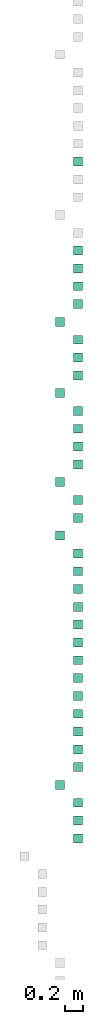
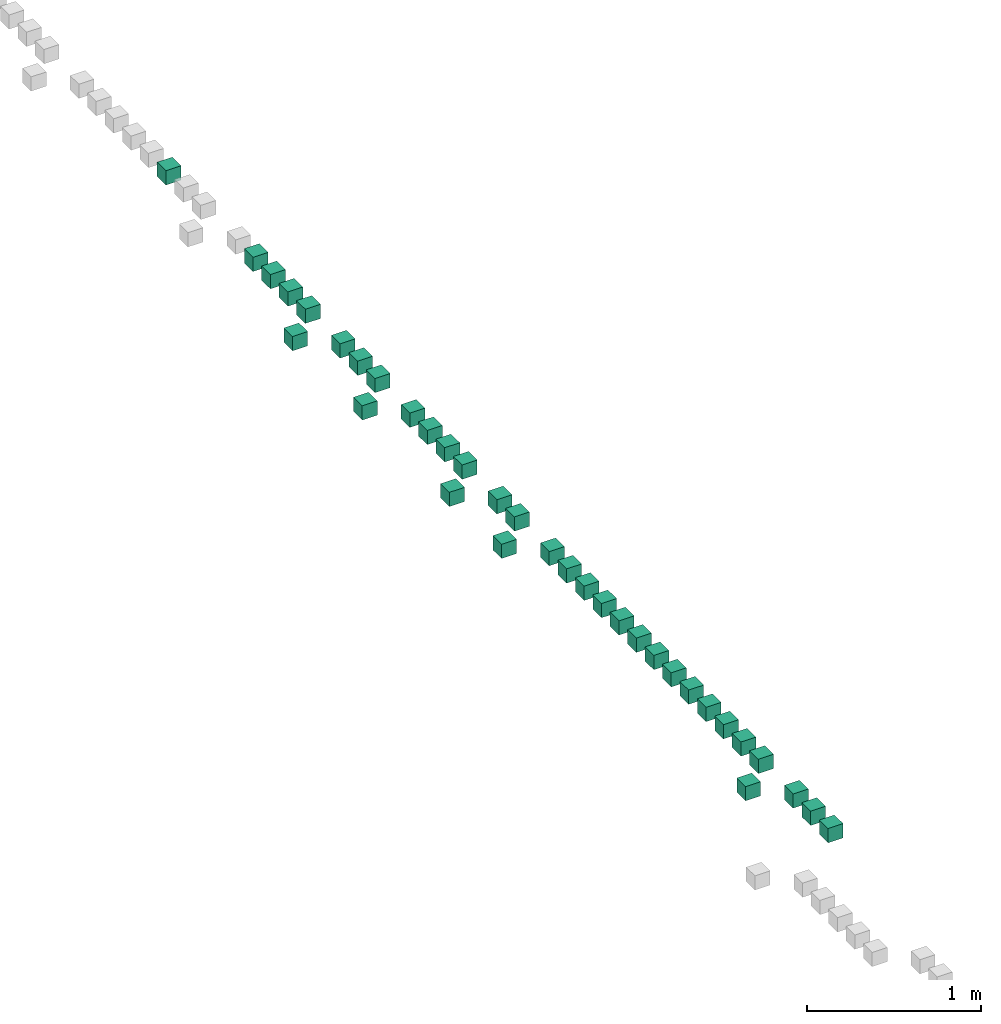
# One storey, part 3 of 7: 1 air terminal, 1 audio visual appliance, 1 cable carrier segment, 1 cable fitting, 1 cable segment, 1 communications appliance, 1 compressor, 1 duct fitting, 27 other elements.
"""IFC4 building model written with IfcOpenShell, lengths in millimetres."""

from ifc_helpers import new_model, entity, si_unit, converted_unit, derived_unit, direction, frame, origin, origin_2d_with_axis, place, context, subcontext, project, spatial, rectangle, extrude, source, transform, mapped, material, type_object, type_shapes, element, save


model = new_model("IFC4")

# Units and contexts
model_context = context("Model", 3, precision=0.01, world=origin(), true_north=direction((6.12303176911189e-17, 1.0)))
body_context = subcontext(model_context, "Body", "Model", "MODEL_VIEW")
ifc_project = project(units=[si_unit("LENGTHUNIT", "METRE", prefix="MILLI"), si_unit("AREAUNIT", "SQUARE_METRE"), si_unit("VOLUMEUNIT", "CUBIC_METRE"), converted_unit("PLANEANGLEUNIT", "DEGREE", entity("IfcRatioMeasure", 0.0174532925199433), si_unit("PLANEANGLEUNIT", "RADIAN"), dimensions=[0, 0, 0, 0, 0, 0, 0]), si_unit("MASSUNIT", "GRAM", prefix="KILO"), derived_unit("MASSDENSITYUNIT", [(si_unit("MASSUNIT", "GRAM", prefix="KILO"), 1), (si_unit("LENGTHUNIT", "METRE"), -3)]), derived_unit("MOMENTOFINERTIAUNIT", [(si_unit("LENGTHUNIT", "METRE"), 4)]), si_unit("TIMEUNIT", "SECOND"), si_unit("FREQUENCYUNIT", "HERTZ"), si_unit("THERMODYNAMICTEMPERATUREUNIT", "DEGREE_CELSIUS"), derived_unit("THERMALTRANSMITTANCEUNIT", [(si_unit("MASSUNIT", "GRAM", prefix="KILO"), 1), (si_unit("THERMODYNAMICTEMPERATUREUNIT", "KELVIN"), -1), (si_unit("TIMEUNIT", "SECOND"), -3)]), derived_unit("VOLUMETRICFLOWRATEUNIT", [(si_unit("LENGTHUNIT", "METRE"), 3), (si_unit("TIMEUNIT", "SECOND"), -1)]), si_unit("ELECTRICCURRENTUNIT", "AMPERE"), si_unit("ELECTRICVOLTAGEUNIT", "VOLT"), si_unit("POWERUNIT", "WATT"), si_unit("FORCEUNIT", "NEWTON", prefix="KILO"), si_unit("ILLUMINANCEUNIT", "LUX"), si_unit("LUMINOUSFLUXUNIT", "LUMEN"), si_unit("LUMINOUSINTENSITYUNIT", "CANDELA"), derived_unit("USERDEFINED", [(si_unit("MASSUNIT", "GRAM", prefix="KILO"), -1), (si_unit("LENGTHUNIT", "METRE"), -2), (si_unit("TIMEUNIT", "SECOND"), 3), (si_unit("LUMINOUSFLUXUNIT", "LUMEN"), 1)]), derived_unit("LINEARVELOCITYUNIT", [(si_unit("LENGTHUNIT", "METRE"), 1), (si_unit("TIMEUNIT", "SECOND"), -1)]), si_unit("PRESSUREUNIT", "PASCAL"), derived_unit("USERDEFINED", [(si_unit("LENGTHUNIT", "METRE"), -2), (si_unit("MASSUNIT", "GRAM", prefix="KILO"), 1), (si_unit("TIMEUNIT", "SECOND"), -2)]), derived_unit("LINEARFORCEUNIT", [(si_unit("MASSUNIT", "GRAM", prefix="KILO"), 1), (si_unit("LENGTHUNIT", "METRE"), 1), (si_unit("TIMEUNIT", "SECOND"), -2), (si_unit("LENGTHUNIT", "METRE"), -1)]), derived_unit("PLANARFORCEUNIT", [(si_unit("MASSUNIT", "GRAM", prefix="KILO"), 1), (si_unit("LENGTHUNIT", "METRE"), 1), (si_unit("TIMEUNIT", "SECOND"), -2), (si_unit("LENGTHUNIT", "METRE"), -2)])], contexts=[model_context])

# Site, building, storey
site_placement = place(None, origin())
site = spatial("IfcSite", under=ifc_project, at=site_placement, Name="Default", CompositionType="ELEMENT")
building_placement = place(site_placement, origin())
building = spatial("IfcBuilding", under=site, at=building_placement, CompositionType="ELEMENT")
storey_placement = place(building_placement, origin())
storey = spatial("IfcBuildingStorey", under=building, at=storey_placement, Name="Level 1", CompositionType="ELEMENT", Elevation=0.0)

# Flow moving device
ifc_material = material(Name="<Unnamed>")
distribution_element_type = type_object("IfcDistributionElementType", Name="Generic Ifc Family:Generic Ifc Family", material=ifc_material)
shared_shape_1 = source(origin(), body_context, "Body", "SweptSolid", [
    extrude(rectangle(XDim=100.0, YDim=100.0, at=origin_2d_with_axis()), frame((50.0, 50.0, 0.0), z_axis=(0.0, 0.0, 1.0), x_axis=(0.0, -1.0, 0.0)), (0.0, 0.0, 1.0), 100.0),
])
type_shapes(distribution_element_type, [shared_shape_1])
flow_moving_device_placement = place(storey_placement, frame((400.0, 9500.0, 0.0), z_axis=(0.0, 0.0, 1.0), x_axis=(0.0, -1.0, 0.0)))
element("IfcFlowMovingDevice", 1, at=flow_moving_device_placement, inside=storey, type_object=distribution_element_type, material=ifc_material, Name="Generic Ifc Family:Generic Ifc Family", ObjectType="Generic Ifc Family:Generic Ifc Family", context=body_context, shape_type="MappedRepresentation", body=[
    mapped(shared_shape_1, transform((0.0, 0.0, 0.0), scale=1.0)),
])

# Flow segment
flow_segment_placement = place(storey_placement, frame((400.0, 8700.0, 0.0), z_axis=(0.0, 0.0, 1.0), x_axis=(0.0, -1.0, 0.0)))
element("IfcFlowSegment", 2, at=flow_segment_placement, inside=storey, type_object=distribution_element_type, material=ifc_material, Name="Generic Ifc Family:Generic Ifc Family", ObjectType="Generic Ifc Family:Generic Ifc Family", context=body_context, shape_type="MappedRepresentation", body=[
    mapped(shared_shape_1, transform((0.0, 0.0, 0.0), scale=1.0)),
])

# Flow storage device
flow_storage_device_placement = place(storey_placement, frame((400.0, 7700.0, 0.0), z_axis=(0.0, 0.0, 1.0), x_axis=(0.0, -1.0, 0.0)))
element("IfcFlowStorageDevice", 3, at=flow_storage_device_placement, inside=storey, type_object=distribution_element_type, material=ifc_material, Name="Generic Ifc Family:Generic Ifc Family", ObjectType="Generic Ifc Family:Generic Ifc Family", context=body_context, shape_type="MappedRepresentation", body=[
    mapped(shared_shape_1, transform((0.0, 0.0, 0.0), scale=1.0)),
])

# Flow terminal
flow_terminal_placement = place(storey_placement, frame((400.0, 7100.0, 0.0), z_axis=(0.0, 0.0, 1.0), x_axis=(0.0, -1.0, 0.0)))
element("IfcFlowTerminal", 4, at=flow_terminal_placement, inside=storey, type_object=distribution_element_type, material=ifc_material, Name="Generic Ifc Family:Generic Ifc Family", ObjectType="Generic Ifc Family:Generic Ifc Family", context=body_context, shape_type="MappedRepresentation", body=[
    mapped(shared_shape_1, transform((0.0, 0.0, 0.0), scale=1.0)),
])

# Flow treatment device
flow_treatment_device_placement = place(storey_placement, frame((400.0, 4300.0, 0.0), z_axis=(0.0, 0.0, 1.0), x_axis=(0.0, -1.0, 0.0)))
element("IfcFlowTreatmentDevice", 5, at=flow_treatment_device_placement, inside=storey, type_object=distribution_element_type, material=ifc_material, Name="Generic Ifc Family:Generic Ifc Family", ObjectType="Generic Ifc Family:Generic Ifc Family", context=body_context, shape_type="MappedRepresentation", body=[
    mapped(shared_shape_1, transform((0.0, 0.0, 0.0), scale=1.0)),
])

# Protective device
protective_device_type = type_object("IfcProtectiveDeviceType", Name="Generic Ifc Family:Generic Ifc Family", PredefinedType="NOTDEFINED", material=ifc_material)
shared_shape_2 = source(origin(), body_context, "Body", "SweptSolid", [
    extrude(rectangle(XDim=100.0, YDim=100.0, at=origin_2d_with_axis()), frame((50.0, 50.0, 0.0), z_axis=(0.0, 0.0, 1.0), x_axis=(0.0, -1.0, 0.0)), (0.0, 0.0, 1.0), 100.0),
])
type_shapes(protective_device_type, [shared_shape_2])
protective_device_placement = place(storey_placement, frame((600.0, 11300.0, 0.0), z_axis=(0.0, 0.0, 1.0), x_axis=(0.0, -1.0, 0.0)))
element("IfcProtectiveDevice", 6, at=protective_device_placement, inside=storey, type_object=protective_device_type, material=ifc_material, Name="Generic Ifc Family:Generic Ifc Family", ObjectType="Generic Ifc Family:Generic Ifc Family", PredefinedType="NOTDEFINED", context=body_context, shape_type="MappedRepresentation", body=[
    mapped(shared_shape_2, transform((0.0, 0.0, 0.0), scale=1.0)),
])

# Cable fitting
cable_fitting_type = type_object("IfcCableFittingType", Name="Generic Ifc Family:Generic Ifc Family", PredefinedType="NOTDEFINED", material=ifc_material)
shared_shape_3 = source(origin(), body_context, "Body", "SweptSolid", [
    extrude(rectangle(XDim=100.0, YDim=100.0, at=origin_2d_with_axis()), frame((50.0, 50.0, 0.0), z_axis=(0.0, 0.0, 1.0), x_axis=(0.0, -1.0, 0.0)), (0.0, 0.0, 1.0), 100.0),
])
type_shapes(cable_fitting_type, [shared_shape_3])
cable_fitting_placement = place(storey_placement, frame((600.0, 10300.0, 0.0), z_axis=(0.0, 0.0, 1.0), x_axis=(0.0, -1.0, 0.0)))
element("IfcCableFitting", 7, at=cable_fitting_placement, inside=storey, type_object=cable_fitting_type, material=ifc_material, Name="Generic Ifc Family:Generic Ifc Family", ObjectType="Generic Ifc Family:Generic Ifc Family", PredefinedType="NOTDEFINED", context=body_context, shape_type="MappedRepresentation", body=[
    mapped(shared_shape_3, transform((0.0, 0.0, 0.0), scale=1.0)),
])

# Duct fitting
duct_fitting_type = type_object("IfcDuctFittingType", Name="Generic Ifc Family:Generic Ifc Family", PredefinedType="NOTDEFINED", material=ifc_material)
shared_shape_4 = source(origin(), body_context, "Body", "SweptSolid", [
    extrude(rectangle(XDim=100.0, YDim=100.0, at=origin_2d_with_axis()), frame((50.0, 50.0, 0.0), z_axis=(0.0, 0.0, 1.0), x_axis=(0.0, -1.0, 0.0)), (0.0, 0.0, 1.0), 100.0),
])
type_shapes(duct_fitting_type, [shared_shape_4])
duct_fitting_placement = place(storey_placement, frame((600.0, 10100.0, 0.0), z_axis=(0.0, 0.0, 1.0), x_axis=(0.0, -1.0, 0.0)))
element("IfcDuctFitting", 8, at=duct_fitting_placement, inside=storey, type_object=duct_fitting_type, material=ifc_material, Name="Generic Ifc Family:Generic Ifc Family", ObjectType="Generic Ifc Family:Generic Ifc Family", PredefinedType="NOTDEFINED", context=body_context, shape_type="MappedRepresentation", body=[
    mapped(shared_shape_4, transform((0.0, 0.0, 0.0), scale=1.0)),
])

# Junction box
junction_box_type = type_object("IfcJunctionBoxType", Name="Generic Ifc Family:Generic Ifc Family", PredefinedType="NOTDEFINED", material=ifc_material)
shared_shape_5 = source(origin(), body_context, "Body", "SweptSolid", [
    extrude(rectangle(XDim=100.0, YDim=100.0, at=origin_2d_with_axis()), frame((50.0, 50.0, 0.0), z_axis=(0.0, 0.0, 1.0), x_axis=(0.0, -1.0, 0.0)), (0.0, 0.0, 1.0), 100.0),
])
type_shapes(junction_box_type, [shared_shape_5])
junction_box_placement = place(storey_placement, frame((600.0, 9900.0, 0.0), z_axis=(0.0, 0.0, 1.0), x_axis=(0.0, -1.0, 0.0)))
element("IfcJunctionBox", 9, at=junction_box_placement, inside=storey, type_object=junction_box_type, material=ifc_material, Name="Generic Ifc Family:Generic Ifc Family", ObjectType="Generic Ifc Family:Generic Ifc Family", PredefinedType="NOTDEFINED", context=body_context, shape_type="MappedRepresentation", body=[
    mapped(shared_shape_5, transform((0.0, 0.0, 0.0), scale=1.0)),
])

# Pipe fitting
pipe_fitting_type = type_object("IfcPipeFittingType", Name="Generic Ifc Family:Generic Ifc Family", PredefinedType="NOTDEFINED", material=ifc_material)
shared_shape_6 = source(origin(), body_context, "Body", "SweptSolid", [
    extrude(rectangle(XDim=100.0, YDim=100.0, at=origin_2d_with_axis()), frame((50.0, 50.0, 0.0), z_axis=(0.0, 0.0, 1.0), x_axis=(0.0, -1.0, 0.0)), (0.0, 0.0, 1.0), 100.0),
])
type_shapes(pipe_fitting_type, [shared_shape_6])
pipe_fitting_placement = place(storey_placement, frame((600.0, 9700.0, 0.0), z_axis=(0.0, 0.0, 1.0), x_axis=(0.0, -1.0, 0.0)))
element("IfcPipeFitting", 10, at=pipe_fitting_placement, inside=storey, type_object=pipe_fitting_type, material=ifc_material, Name="Generic Ifc Family:Generic Ifc Family", ObjectType="Generic Ifc Family:Generic Ifc Family", PredefinedType="NOTDEFINED", context=body_context, shape_type="MappedRepresentation", body=[
    mapped(shared_shape_6, transform((0.0, 0.0, 0.0), scale=1.0)),
])

# Compressor
compressor_type = type_object("IfcCompressorType", Name="Generic Ifc Family:Generic Ifc Family", PredefinedType="NOTDEFINED", material=ifc_material)
shared_shape_7 = source(origin(), body_context, "Body", "SweptSolid", [
    extrude(rectangle(XDim=100.0, YDim=100.0, at=origin_2d_with_axis()), frame((50.0, 50.0, 0.0), z_axis=(0.0, 0.0, 1.0), x_axis=(0.0, -1.0, 0.0)), (0.0, 0.0, 1.0), 100.0),
])
type_shapes(compressor_type, [shared_shape_7])
compressor_placement = place(storey_placement, frame((600.0, 9300.0, 0.0), z_axis=(0.0, 0.0, 1.0), x_axis=(0.0, -1.0, 0.0)))
element("IfcCompressor", 11, at=compressor_placement, inside=storey, type_object=compressor_type, material=ifc_material, Name="Generic Ifc Family:Generic Ifc Family", ObjectType="Generic Ifc Family:Generic Ifc Family", PredefinedType="NOTDEFINED", context=body_context, shape_type="MappedRepresentation", body=[
    mapped(shared_shape_7, transform((0.0, 0.0, 0.0), scale=1.0)),
])

# Fan
fan_type = type_object("IfcFanType", Name="Generic Ifc Family:Generic Ifc Family", PredefinedType="NOTDEFINED", material=ifc_material)
shared_shape_8 = source(origin(), body_context, "Body", "SweptSolid", [
    extrude(rectangle(XDim=100.0, YDim=100.0, at=origin_2d_with_axis()), frame((50.0, 50.0, 0.0), z_axis=(0.0, 0.0, 1.0), x_axis=(0.0, -1.0, 0.0)), (0.0, 0.0, 1.0), 100.0),
])
type_shapes(fan_type, [shared_shape_8])
fan_placement = place(storey_placement, frame((600.0, 9100.0, 0.0), z_axis=(0.0, 0.0, 1.0), x_axis=(0.0, -1.0, 0.0)))
element("IfcFan", 12, at=fan_placement, inside=storey, type_object=fan_type, material=ifc_material, Name="Generic Ifc Family:Generic Ifc Family", ObjectType="Generic Ifc Family:Generic Ifc Family", PredefinedType="NOTDEFINED", context=body_context, shape_type="MappedRepresentation", body=[
    mapped(shared_shape_8, transform((0.0, 0.0, 0.0), scale=1.0)),
])

# Pump
pump_type = type_object("IfcPumpType", Name="Generic Ifc Family:Generic Ifc Family", PredefinedType="NOTDEFINED", material=ifc_material)
shared_shape_9 = source(origin(), body_context, "Body", "SweptSolid", [
    extrude(rectangle(XDim=100.0, YDim=100.0, at=origin_2d_with_axis()), frame((50.0, 50.0, 0.0), z_axis=(0.0, 0.0, 1.0), x_axis=(0.0, -1.0, 0.0)), (0.0, 0.0, 1.0), 100.0),
])
type_shapes(pump_type, [shared_shape_9])
pump_placement = place(storey_placement, frame((600.0, 8900.0, 0.0), z_axis=(0.0, 0.0, 1.0), x_axis=(0.0, -1.0, 0.0)))
element("IfcPump", 13, at=pump_placement, inside=storey, type_object=pump_type, material=ifc_material, Name="Generic Ifc Family:Generic Ifc Family", ObjectType="Generic Ifc Family:Generic Ifc Family", PredefinedType="NOTDEFINED", context=body_context, shape_type="MappedRepresentation", body=[
    mapped(shared_shape_9, transform((0.0, 0.0, 0.0), scale=1.0)),
])

# Cable carrier segment
cable_carrier_segment_type = type_object("IfcCableCarrierSegmentType", Name="Generic Ifc Family:Generic Ifc Family", PredefinedType="NOTDEFINED", material=ifc_material)
shared_shape_10 = source(origin(), body_context, "Body", "SweptSolid", [
    extrude(rectangle(XDim=100.0, YDim=100.0, at=origin_2d_with_axis()), frame((50.0, 50.0, 0.0), z_axis=(0.0, 0.0, 1.0), x_axis=(0.0, -1.0, 0.0)), (0.0, 0.0, 1.0), 100.0),
])
type_shapes(cable_carrier_segment_type, [shared_shape_10])
cable_carrier_segment_placement = place(storey_placement, frame((600.0, 8500.0, 0.0), z_axis=(0.0, 0.0, 1.0), x_axis=(0.0, -1.0, 0.0)))
element("IfcCableCarrierSegment", 14, at=cable_carrier_segment_placement, inside=storey, type_object=cable_carrier_segment_type, material=ifc_material, Name="Generic Ifc Family:Generic Ifc Family", ObjectType="Generic Ifc Family:Generic Ifc Family", PredefinedType="NOTDEFINED", context=body_context, shape_type="MappedRepresentation", body=[
    mapped(shared_shape_10, transform((0.0, 0.0, 0.0), scale=1.0)),
])

# Cable segment
cable_segment_type = type_object("IfcCableSegmentType", Name="Generic Ifc Family:Generic Ifc Family", PredefinedType="NOTDEFINED", material=ifc_material)
shared_shape_11 = source(origin(), body_context, "Body", "SweptSolid", [
    extrude(rectangle(XDim=100.0, YDim=100.0, at=origin_2d_with_axis()), frame((50.0, 50.0, 0.0), z_axis=(0.0, 0.0, 1.0), x_axis=(0.0, -1.0, 0.0)), (0.0, 0.0, 1.0), 100.0),
])
type_shapes(cable_segment_type, [shared_shape_11])
cable_segment_placement = place(storey_placement, frame((600.0, 8300.0, 0.0), z_axis=(0.0, 0.0, 1.0), x_axis=(0.0, -1.0, 0.0)))
element("IfcCableSegment", 15, at=cable_segment_placement, inside=storey, type_object=cable_segment_type, material=ifc_material, Name="Generic Ifc Family:Generic Ifc Family", ObjectType="Generic Ifc Family:Generic Ifc Family", PredefinedType="NOTDEFINED", context=body_context, shape_type="MappedRepresentation", body=[
    mapped(shared_shape_11, transform((0.0, 0.0, 0.0), scale=1.0)),
])

# Duct segment
duct_segment_type = type_object("IfcDuctSegmentType", Name="Generic Ifc Family:Generic Ifc Family", PredefinedType="NOTDEFINED", material=ifc_material)
shared_shape_12 = source(origin(), body_context, "Body", "SweptSolid", [
    extrude(rectangle(XDim=100.0, YDim=100.0, at=origin_2d_with_axis()), frame((50.0, 50.0, 0.0), z_axis=(0.0, 0.0, 1.0), x_axis=(0.0, -1.0, 0.0)), (0.0, 0.0, 1.0), 100.0),
])
type_shapes(duct_segment_type, [shared_shape_12])
duct_segment_placement = place(storey_placement, frame((600.0, 8100.0, 0.0), z_axis=(0.0, 0.0, 1.0), x_axis=(0.0, -1.0, 0.0)))
element("IfcDuctSegment", 16, at=duct_segment_placement, inside=storey, type_object=duct_segment_type, material=ifc_material, Name="Generic Ifc Family:Generic Ifc Family", ObjectType="Generic Ifc Family:Generic Ifc Family", PredefinedType="NOTDEFINED", context=body_context, shape_type="MappedRepresentation", body=[
    mapped(shared_shape_12, transform((0.0, 0.0, 0.0), scale=1.0)),
])

# Pipe segment
pipe_segment_type = type_object("IfcPipeSegmentType", Name="Generic Ifc Family:Generic Ifc Family", PredefinedType="NOTDEFINED", material=ifc_material)
shared_shape_13 = source(origin(), body_context, "Body", "SweptSolid", [
    extrude(rectangle(XDim=100.0, YDim=100.0, at=origin_2d_with_axis()), frame((50.0, 50.0, 0.0), z_axis=(0.0, 0.0, 1.0), x_axis=(0.0, -1.0, 0.0)), (0.0, 0.0, 1.0), 100.0),
])
type_shapes(pipe_segment_type, [shared_shape_13])
pipe_segment_placement = place(storey_placement, frame((600.0, 7900.0, 0.0), z_axis=(0.0, 0.0, 1.0), x_axis=(0.0, -1.0, 0.0)))
element("IfcPipeSegment", 17, at=pipe_segment_placement, inside=storey, type_object=pipe_segment_type, material=ifc_material, Name="Generic Ifc Family:Generic Ifc Family", ObjectType="Generic Ifc Family:Generic Ifc Family", PredefinedType="NOTDEFINED", context=body_context, shape_type="MappedRepresentation", body=[
    mapped(shared_shape_13, transform((0.0, 0.0, 0.0), scale=1.0)),
])

# Electric flow storage device
electric_flow_storage_device_type = type_object("IfcElectricFlowStorageDeviceType", Name="Generic Ifc Family:Generic Ifc Family", PredefinedType="NOTDEFINED", material=ifc_material)
shared_shape_14 = source(origin(), body_context, "Body", "SweptSolid", [
    extrude(rectangle(XDim=100.0, YDim=100.0, at=origin_2d_with_axis()), frame((50.0, 50.0, 0.0), z_axis=(0.0, 0.0, 1.0), x_axis=(0.0, -1.0, 0.0)), (0.0, 0.0, 1.0), 100.0),
])
type_shapes(electric_flow_storage_device_type, [shared_shape_14])
electric_flow_storage_device_placement = place(storey_placement, frame((600.0, 7500.0, 0.0), z_axis=(0.0, 0.0, 1.0), x_axis=(0.0, -1.0, 0.0)))
element("IfcElectricFlowStorageDevice", 18, at=electric_flow_storage_device_placement, inside=storey, type_object=electric_flow_storage_device_type, material=ifc_material, Name="Generic Ifc Family:Generic Ifc Family", ObjectType="Generic Ifc Family:Generic Ifc Family", PredefinedType="NOTDEFINED", context=body_context, shape_type="MappedRepresentation", body=[
    mapped(shared_shape_14, transform((0.0, 0.0, 0.0), scale=1.0)),
])

# Tank
tank_type = type_object("IfcTankType", Name="Generic Ifc Family:Generic Ifc Family", PredefinedType="NOTDEFINED", material=ifc_material)
shared_shape_15 = source(origin(), body_context, "Body", "SweptSolid", [
    extrude(rectangle(XDim=100.0, YDim=100.0, at=origin_2d_with_axis()), frame((50.0, 50.0, 0.0), z_axis=(0.0, 0.0, 1.0), x_axis=(0.0, -1.0, 0.0)), (0.0, 0.0, 1.0), 100.0),
])
type_shapes(tank_type, [shared_shape_15])
tank_placement = place(storey_placement, frame((600.0, 7300.0, 0.0), z_axis=(0.0, 0.0, 1.0), x_axis=(0.0, -1.0, 0.0)))
element("IfcTank", 19, at=tank_placement, inside=storey, type_object=tank_type, material=ifc_material, Name="Generic Ifc Family:Generic Ifc Family", ObjectType="Generic Ifc Family:Generic Ifc Family", PredefinedType="NOTDEFINED", context=body_context, shape_type="MappedRepresentation", body=[
    mapped(shared_shape_15, transform((0.0, 0.0, 0.0), scale=1.0)),
])

# Air terminal
air_terminal_type = type_object("IfcAirTerminalType", Name="Generic Ifc Family:Generic Ifc Family", PredefinedType="NOTDEFINED", material=ifc_material)
shared_shape_16 = source(origin(), body_context, "Body", "SweptSolid", [
    extrude(rectangle(XDim=100.0, YDim=100.0, at=origin_2d_with_axis()), frame((50.0, 50.0, 0.0), z_axis=(0.0, 0.0, 1.0), x_axis=(0.0, -1.0, 0.0)), (0.0, 0.0, 1.0), 100.0),
])
type_shapes(air_terminal_type, [shared_shape_16])
air_terminal_placement = place(storey_placement, frame((600.0, 6900.0, 0.0), z_axis=(0.0, 0.0, 1.0), x_axis=(0.0, -1.0, 0.0)))
element("IfcAirTerminal", 20, at=air_terminal_placement, inside=storey, type_object=air_terminal_type, material=ifc_material, Name="Generic Ifc Family:Generic Ifc Family", ObjectType="Generic Ifc Family:Generic Ifc Family", PredefinedType="NOTDEFINED", context=body_context, shape_type="MappedRepresentation", body=[
    mapped(shared_shape_16, transform((0.0, 0.0, 0.0), scale=1.0)),
])

# Audio visual appliance
audio_visual_appliance_type = type_object("IfcAudioVisualApplianceType", Name="Generic Ifc Family:Generic Ifc Family", PredefinedType="NOTDEFINED", material=ifc_material)
shared_shape_17 = source(origin(), body_context, "Body", "SweptSolid", [
    extrude(rectangle(XDim=100.0, YDim=100.0, at=origin_2d_with_axis()), frame((50.0, 50.0, 0.0), z_axis=(0.0, 0.0, 1.0), x_axis=(0.0, -1.0, 0.0)), (0.0, 0.0, 1.0), 100.0),
])
type_shapes(audio_visual_appliance_type, [shared_shape_17])
audio_visual_appliance_placement = place(storey_placement, frame((600.0, 6700.0, 0.0), z_axis=(0.0, 0.0, 1.0), x_axis=(0.0, -1.0, 0.0)))
element("IfcAudioVisualAppliance", 21, at=audio_visual_appliance_placement, inside=storey, type_object=audio_visual_appliance_type, material=ifc_material, Name="Generic Ifc Family:Generic Ifc Family", ObjectType="Generic Ifc Family:Generic Ifc Family", PredefinedType="NOTDEFINED", context=body_context, shape_type="MappedRepresentation", body=[
    mapped(shared_shape_17, transform((0.0, 0.0, 0.0), scale=1.0)),
])

# Communications appliance
communications_appliance_type = type_object("IfcCommunicationsApplianceType", Name="Generic Ifc Family:Generic Ifc Family", PredefinedType="NOTDEFINED", material=ifc_material)
shared_shape_18 = source(origin(), body_context, "Body", "SweptSolid", [
    extrude(rectangle(XDim=100.0, YDim=100.0, at=origin_2d_with_axis()), frame((50.0, 50.0, 0.0), z_axis=(0.0, 0.0, 1.0), x_axis=(0.0, -1.0, 0.0)), (0.0, 0.0, 1.0), 100.0),
])
type_shapes(communications_appliance_type, [shared_shape_18])
communications_appliance_placement = place(storey_placement, frame((600.0, 6500.0, 0.0), z_axis=(0.0, 0.0, 1.0), x_axis=(0.0, -1.0, 0.0)))
element("IfcCommunicationsAppliance", 22, at=communications_appliance_placement, inside=storey, type_object=communications_appliance_type, material=ifc_material, Name="Generic Ifc Family:Generic Ifc Family", ObjectType="Generic Ifc Family:Generic Ifc Family", PredefinedType="NOTDEFINED", context=body_context, shape_type="MappedRepresentation", body=[
    mapped(shared_shape_18, transform((0.0, 0.0, 0.0), scale=1.0)),
])

# Electric appliance
electric_appliance_type = type_object("IfcElectricApplianceType", Name="Generic Ifc Family:Generic Ifc Family", PredefinedType="NOTDEFINED", material=ifc_material)
shared_shape_19 = source(origin(), body_context, "Body", "SweptSolid", [
    extrude(rectangle(XDim=100.0, YDim=100.0, at=origin_2d_with_axis()), frame((50.0, 50.0, 0.0), z_axis=(0.0, 0.0, 1.0), x_axis=(0.0, -1.0, 0.0)), (0.0, 0.0, 1.0), 100.0),
])
type_shapes(electric_appliance_type, [shared_shape_19])
electric_appliance_placement = place(storey_placement, frame((600.0, 6300.0, 0.0), z_axis=(0.0, 0.0, 1.0), x_axis=(0.0, -1.0, 0.0)))
element("IfcElectricAppliance", 23, at=electric_appliance_placement, inside=storey, type_object=electric_appliance_type, material=ifc_material, Name="Generic Ifc Family:Generic Ifc Family", ObjectType="Generic Ifc Family:Generic Ifc Family", PredefinedType="NOTDEFINED", context=body_context, shape_type="MappedRepresentation", body=[
    mapped(shared_shape_19, transform((0.0, 0.0, 0.0), scale=1.0)),
])

# Fire suppression terminal
fire_suppression_terminal_type = type_object("IfcFireSuppressionTerminalType", Name="Generic Ifc Family:Generic Ifc Family", PredefinedType="NOTDEFINED", material=ifc_material)
shared_shape_20 = source(origin(), body_context, "Body", "SweptSolid", [
    extrude(rectangle(XDim=100.0, YDim=100.0, at=origin_2d_with_axis()), frame((50.0, 50.0, 0.0), z_axis=(0.0, 0.0, 1.0), x_axis=(0.0, -1.0, 0.0)), (0.0, 0.0, 1.0), 100.0),
])
type_shapes(fire_suppression_terminal_type, [shared_shape_20])
fire_suppression_terminal_placement = place(storey_placement, frame((600.0, 6100.0, 0.0), z_axis=(0.0, 0.0, 1.0), x_axis=(0.0, -1.0, 0.0)))
element("IfcFireSuppressionTerminal", 24, at=fire_suppression_terminal_placement, inside=storey, type_object=fire_suppression_terminal_type, material=ifc_material, Name="Generic Ifc Family:Generic Ifc Family", ObjectType="Generic Ifc Family:Generic Ifc Family", PredefinedType="NOTDEFINED", context=body_context, shape_type="MappedRepresentation", body=[
    mapped(shared_shape_20, transform((0.0, 0.0, 0.0), scale=1.0)),
])

# Lamp
lamp_type = type_object("IfcLampType", Name="Generic Ifc Family:Generic Ifc Family", PredefinedType="NOTDEFINED", material=ifc_material)
shared_shape_21 = source(origin(), body_context, "Body", "SweptSolid", [
    extrude(rectangle(XDim=100.0, YDim=100.0, at=origin_2d_with_axis()), frame((50.0, 50.0, 0.0), z_axis=(0.0, 0.0, 1.0), x_axis=(0.0, -1.0, 0.0)), (0.0, 0.0, 1.0), 100.0),
])
type_shapes(lamp_type, [shared_shape_21])
lamp_placement = place(storey_placement, frame((600.0, 5900.0, 0.0), z_axis=(0.0, 0.0, 1.0), x_axis=(0.0, -1.0, 0.0)))
element("IfcLamp", 25, at=lamp_placement, inside=storey, type_object=lamp_type, material=ifc_material, Name="Generic Ifc Family:Generic Ifc Family", ObjectType="Generic Ifc Family:Generic Ifc Family", PredefinedType="NOTDEFINED", context=body_context, shape_type="MappedRepresentation", body=[
    mapped(shared_shape_21, transform((0.0, 0.0, 0.0), scale=1.0)),
])

# Light fixture
light_fixture_type = type_object("IfcLightFixtureType", Name="Generic Ifc Family:Generic Ifc Family", PredefinedType="NOTDEFINED", material=ifc_material)
shared_shape_22 = source(origin(), body_context, "Body", "SweptSolid", [
    extrude(rectangle(XDim=100.0, YDim=100.0, at=origin_2d_with_axis()), frame((50.0, 50.0, 0.0), z_axis=(0.0, 0.0, 1.0), x_axis=(0.0, -1.0, 0.0)), (0.0, 0.0, 1.0), 100.0),
])
type_shapes(light_fixture_type, [shared_shape_22])
light_fixture_placement = place(storey_placement, frame((600.0, 5700.0, 0.0), z_axis=(0.0, 0.0, 1.0), x_axis=(0.0, -1.0, 0.0)))
element("IfcLightFixture", 26, at=light_fixture_placement, inside=storey, type_object=light_fixture_type, material=ifc_material, Name="Generic Ifc Family:Generic Ifc Family", ObjectType="Generic Ifc Family:Generic Ifc Family", PredefinedType="NOTDEFINED", context=body_context, shape_type="MappedRepresentation", body=[
    mapped(shared_shape_22, transform((0.0, 0.0, 0.0), scale=1.0)),
])

# Medical device
medical_device_type = type_object("IfcMedicalDeviceType", Name="Generic Ifc Family:Generic Ifc Family", PredefinedType="NOTDEFINED", material=ifc_material)
shared_shape_23 = source(origin(), body_context, "Body", "SweptSolid", [
    extrude(rectangle(XDim=100.0, YDim=100.0, at=origin_2d_with_axis()), frame((50.0, 50.0, 0.0), z_axis=(0.0, 0.0, 1.0), x_axis=(0.0, -1.0, 0.0)), (0.0, 0.0, 1.0), 100.0),
])
type_shapes(medical_device_type, [shared_shape_23])
medical_device_placement = place(storey_placement, frame((600.0, 5500.0, 0.0), z_axis=(0.0, 0.0, 1.0), x_axis=(0.0, -1.0, 0.0)))
element("IfcMedicalDevice", 27, at=medical_device_placement, inside=storey, type_object=medical_device_type, material=ifc_material, Name="Generic Ifc Family:Generic Ifc Family", ObjectType="Generic Ifc Family:Generic Ifc Family", PredefinedType="NOTDEFINED", context=body_context, shape_type="MappedRepresentation", body=[
    mapped(shared_shape_23, transform((0.0, 0.0, 0.0), scale=1.0)),
])

# Outlet
outlet_type = type_object("IfcOutletType", Name="Generic Ifc Family:Generic Ifc Family", PredefinedType="NOTDEFINED", material=ifc_material)
shared_shape_24 = source(origin(), body_context, "Body", "SweptSolid", [
    extrude(rectangle(XDim=100.0, YDim=100.0, at=origin_2d_with_axis()), frame((50.0, 50.0, 0.0), z_axis=(0.0, 0.0, 1.0), x_axis=(0.0, -1.0, 0.0)), (0.0, 0.0, 1.0), 100.0),
])
type_shapes(outlet_type, [shared_shape_24])
outlet_placement = place(storey_placement, frame((600.0, 5300.0, 0.0), z_axis=(0.0, 0.0, 1.0), x_axis=(0.0, -1.0, 0.0)))
element("IfcOutlet", 28, at=outlet_placement, inside=storey, type_object=outlet_type, material=ifc_material, Name="Generic Ifc Family:Generic Ifc Family", ObjectType="Generic Ifc Family:Generic Ifc Family", PredefinedType="NOTDEFINED", context=body_context, shape_type="MappedRepresentation", body=[
    mapped(shared_shape_24, transform((0.0, 0.0, 0.0), scale=1.0)),
])

# Sanitary terminal
sanitary_terminal_type = type_object("IfcSanitaryTerminalType", Name="Generic Ifc Family:Generic Ifc Family", PredefinedType="NOTDEFINED", material=ifc_material)
shared_shape_25 = source(origin(), body_context, "Body", "SweptSolid", [
    extrude(rectangle(XDim=100.0, YDim=100.0, at=origin_2d_with_axis()), frame((50.0, 50.0, 0.0), z_axis=(0.0, 0.0, 1.0), x_axis=(0.0, -1.0, 0.0)), (0.0, 0.0, 1.0), 100.0),
])
type_shapes(sanitary_terminal_type, [shared_shape_25])
sanitary_terminal_placement = place(storey_placement, frame((600.0, 5100.0, 0.0), z_axis=(0.0, 0.0, 1.0), x_axis=(0.0, -1.0, 0.0)))
element("IfcSanitaryTerminal", 29, at=sanitary_terminal_placement, inside=storey, type_object=sanitary_terminal_type, material=ifc_material, Name="Generic Ifc Family:Generic Ifc Family", ObjectType="Generic Ifc Family:Generic Ifc Family", PredefinedType="NOTDEFINED", context=body_context, shape_type="MappedRepresentation", body=[
    mapped(shared_shape_25, transform((0.0, 0.0, 0.0), scale=1.0)),
])

# Space heater
space_heater_type = type_object("IfcSpaceHeaterType", Name="Generic Ifc Family:Generic Ifc Family", PredefinedType="NOTDEFINED", material=ifc_material)
shared_shape_26 = source(origin(), body_context, "Body", "SweptSolid", [
    extrude(rectangle(XDim=100.0, YDim=100.0, at=origin_2d_with_axis()), frame((50.0, 50.0, 0.0), z_axis=(0.0, 0.0, 1.0), x_axis=(0.0, -1.0, 0.0)), (0.0, 0.0, 1.0), 100.0),
])
type_shapes(space_heater_type, [shared_shape_26])
space_heater_placement = place(storey_placement, frame((600.0, 4900.0, 0.0), z_axis=(0.0, 0.0, 1.0), x_axis=(0.0, -1.0, 0.0)))
element("IfcSpaceHeater", 30, at=space_heater_placement, inside=storey, type_object=space_heater_type, material=ifc_material, Name="Generic Ifc Family:Generic Ifc Family", ObjectType="Generic Ifc Family:Generic Ifc Family", PredefinedType="NOTDEFINED", context=body_context, shape_type="MappedRepresentation", body=[
    mapped(shared_shape_26, transform((0.0, 0.0, 0.0), scale=1.0)),
])

# Stack terminal
stack_terminal_type = type_object("IfcStackTerminalType", Name="Generic Ifc Family:Generic Ifc Family", PredefinedType="NOTDEFINED", material=ifc_material)
shared_shape_27 = source(origin(), body_context, "Body", "SweptSolid", [
    extrude(rectangle(XDim=100.0, YDim=100.0, at=origin_2d_with_axis()), frame((50.0, 50.0, 0.0), z_axis=(0.0, 0.0, 1.0), x_axis=(0.0, -1.0, 0.0)), (0.0, 0.0, 1.0), 100.0),
])
type_shapes(stack_terminal_type, [shared_shape_27])
stack_terminal_placement = place(storey_placement, frame((600.0, 4700.0, 0.0), z_axis=(0.0, 0.0, 1.0), x_axis=(0.0, -1.0, 0.0)))
element("IfcStackTerminal", 31, at=stack_terminal_placement, inside=storey, type_object=stack_terminal_type, material=ifc_material, Name="Generic Ifc Family:Generic Ifc Family", ObjectType="Generic Ifc Family:Generic Ifc Family", PredefinedType="NOTDEFINED", context=body_context, shape_type="MappedRepresentation", body=[
    mapped(shared_shape_27, transform((0.0, 0.0, 0.0), scale=1.0)),
])

# Waste terminal
waste_terminal_type = type_object("IfcWasteTerminalType", Name="Generic Ifc Family:Generic Ifc Family", PredefinedType="NOTDEFINED", material=ifc_material)
shared_shape_28 = source(origin(), body_context, "Body", "SweptSolid", [
    extrude(rectangle(XDim=100.0, YDim=100.0, at=origin_2d_with_axis()), frame((50.0, 50.0, 0.0), z_axis=(0.0, 0.0, 1.0), x_axis=(0.0, -1.0, 0.0)), (0.0, 0.0, 1.0), 100.0),
])
type_shapes(waste_terminal_type, [shared_shape_28])
waste_terminal_placement = place(storey_placement, frame((600.0, 4500.0, 0.0), z_axis=(0.0, 0.0, 1.0), x_axis=(0.0, -1.0, 0.0)))
element("IfcWasteTerminal", 32, at=waste_terminal_placement, inside=storey, type_object=waste_terminal_type, material=ifc_material, Name="Generic Ifc Family:Generic Ifc Family", ObjectType="Generic Ifc Family:Generic Ifc Family", PredefinedType="NOTDEFINED", context=body_context, shape_type="MappedRepresentation", body=[
    mapped(shared_shape_28, transform((0.0, 0.0, 0.0), scale=1.0)),
])

# Duct silencer
duct_silencer_type = type_object("IfcDuctSilencerType", Name="Generic Ifc Family:Generic Ifc Family", PredefinedType="NOTDEFINED", material=ifc_material)
shared_shape_29 = source(origin(), body_context, "Body", "SweptSolid", [
    extrude(rectangle(XDim=100.0, YDim=100.0, at=origin_2d_with_axis()), frame((50.0, 50.0, 0.0), z_axis=(0.0, 0.0, 1.0), x_axis=(0.0, -1.0, 0.0)), (0.0, 0.0, 1.0), 100.0),
])
type_shapes(duct_silencer_type, [shared_shape_29])
duct_silencer_placement = place(storey_placement, frame((600.0, 4100.0, 0.0), z_axis=(0.0, 0.0, 1.0), x_axis=(0.0, -1.0, 0.0)))
element("IfcDuctSilencer", 33, at=duct_silencer_placement, inside=storey, type_object=duct_silencer_type, material=ifc_material, Name="Generic Ifc Family:Generic Ifc Family", ObjectType="Generic Ifc Family:Generic Ifc Family", PredefinedType="NOTDEFINED", context=body_context, shape_type="MappedRepresentation", body=[
    mapped(shared_shape_29, transform((0.0, 0.0, 0.0), scale=1.0)),
])

# Filter
filter_type = type_object("IfcFilterType", Name="Generic Ifc Family:Generic Ifc Family", PredefinedType="NOTDEFINED", material=ifc_material)
shared_shape_30 = source(origin(), body_context, "Body", "SweptSolid", [
    extrude(rectangle(XDim=100.0, YDim=100.0, at=origin_2d_with_axis()), frame((50.0, 50.0, 0.0), z_axis=(0.0, 0.0, 1.0), x_axis=(0.0, -1.0, 0.0)), (0.0, 0.0, 1.0), 100.0),
])
type_shapes(filter_type, [shared_shape_30])
ifc_filter_placement = place(storey_placement, frame((600.0, 3900.0, 0.0), z_axis=(0.0, 0.0, 1.0), x_axis=(0.0, -1.0, 0.0)))
element("IfcFilter", 34, at=ifc_filter_placement, inside=storey, type_object=filter_type, material=ifc_material, Name="Generic Ifc Family:Generic Ifc Family", ObjectType="Generic Ifc Family:Generic Ifc Family", PredefinedType="NOTDEFINED", context=body_context, shape_type="MappedRepresentation", body=[
    mapped(shared_shape_30, transform((0.0, 0.0, 0.0), scale=1.0)),
])

# Interceptor
interceptor_type = type_object("IfcInterceptorType", Name="Generic Ifc Family:Generic Ifc Family", PredefinedType="NOTDEFINED", material=ifc_material)
shared_shape_31 = source(origin(), body_context, "Body", "SweptSolid", [
    extrude(rectangle(XDim=100.0, YDim=100.0, at=origin_2d_with_axis()), frame((50.0, 50.0, 0.0), z_axis=(0.0, 0.0, 1.0), x_axis=(0.0, -1.0, 0.0)), (0.0, 0.0, 1.0), 100.0),
])
type_shapes(interceptor_type, [shared_shape_31])
interceptor_placement = place(storey_placement, frame((600.0, 3700.0, 0.0), z_axis=(0.0, 0.0, 1.0), x_axis=(0.0, -1.0, 0.0)))
element("IfcInterceptor", 35, at=interceptor_placement, inside=storey, type_object=interceptor_type, material=ifc_material, Name="Generic Ifc Family:Generic Ifc Family", ObjectType="Generic Ifc Family:Generic Ifc Family", PredefinedType="NOTDEFINED", context=body_context, shape_type="MappedRepresentation", body=[
    mapped(shared_shape_31, transform((0.0, 0.0, 0.0), scale=1.0)),
])

save(model, "model.ifc")
